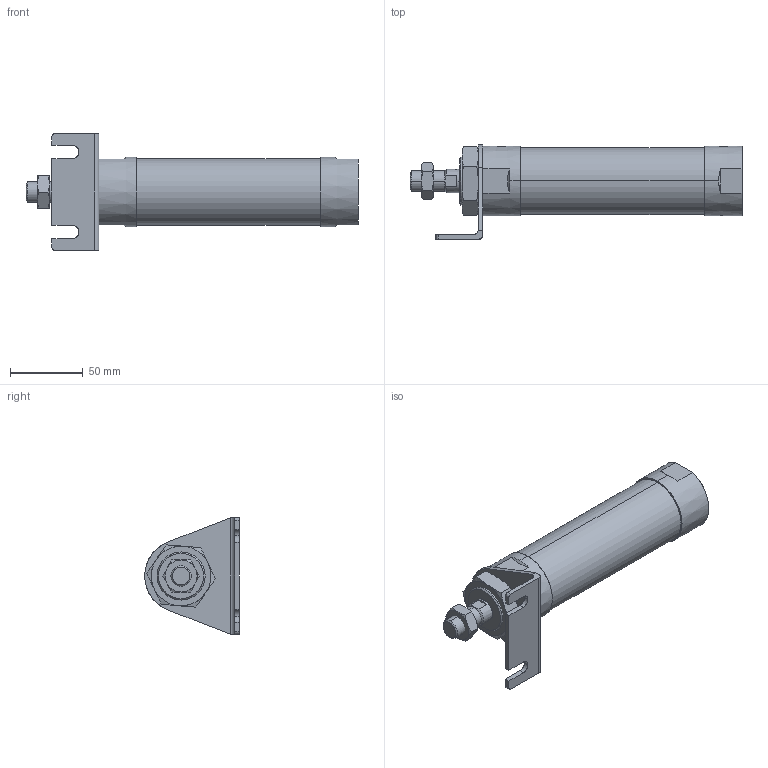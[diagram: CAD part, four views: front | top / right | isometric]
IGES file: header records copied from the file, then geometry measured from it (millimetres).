
Start section: SolidWorks IGES file using analytic representation for surfaces
Global section: file name: C:\Users\Toshiba\Desktop\JGND2-40-75-L.IGS; native system: SolidWorks 2014; preprocessor: SolidWorks 2014; author: Toshiba; date: 160804.110642; units: millimetre
Bounding box: 228 x 65 x 80 mm (x, y, z)
Surface area: 50768.5 mm2 (no closed solid volume)
Topology: 0 solids, 0 shells, 116 faces, 2112 edges, 2108 vertices
Faces by surface type: bspline 71, revolution 45
